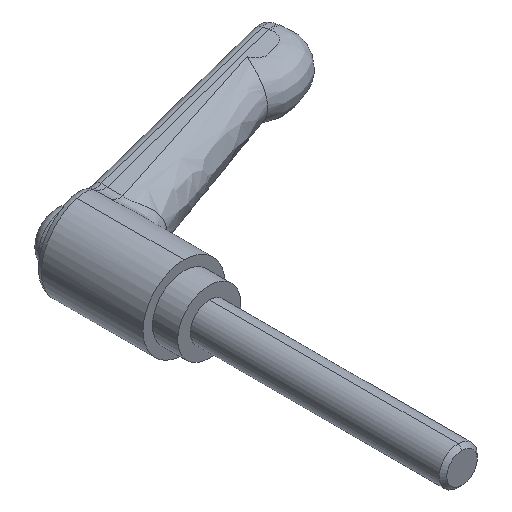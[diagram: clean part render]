
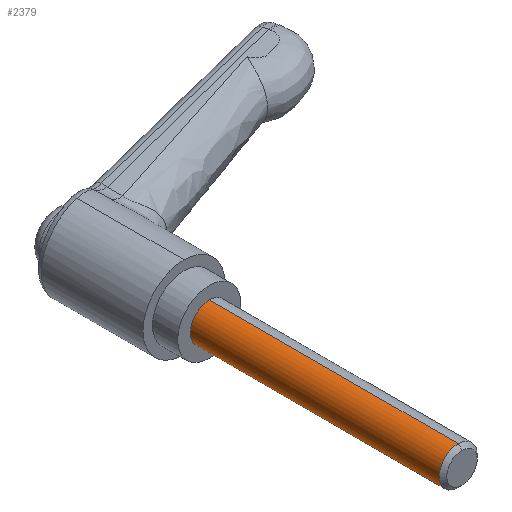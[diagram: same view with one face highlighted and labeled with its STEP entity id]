
A CAD part, isometric view. The second image highlights one B-rep face of the part: STEP entity #2379.
In plain terms, the highlighted cylindrical face has radius 3 mm (diameter 6 mm), a partial arc.
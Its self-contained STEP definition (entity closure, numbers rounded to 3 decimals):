
#53 = DIRECTION ( 'NONE',  ( 0., 1., 0. ) ) ;
#81 = EDGE_CURVE ( 'NONE', #1666, #2866, #2940, .T. ) ;
#266 = LINE ( 'NONE', #1312, #952 ) ;
#339 = DIRECTION ( 'NONE',  ( 0., 1., 0. ) ) ;
#371 = CARTESIAN_POINT ( 'NONE',  ( 0., -4., -3. ) ) ;
#434 = AXIS2_PLACEMENT_3D ( 'NONE', #2111, #53, #1805 ) ;
#554 = DIRECTION ( 'NONE',  ( 0., 0., 1. ) ) ;
#712 = AXIS2_PLACEMENT_3D ( 'NONE', #2634, #1553, #554 ) ;
#723 = VERTEX_POINT ( 'NONE', #1105 ) ;
#952 = VECTOR ( 'NONE', #3170, 1000. ) ;
#993 = VECTOR ( 'NONE', #1987, 1000. ) ;
#1101 = VERTEX_POINT ( 'NONE', #371 ) ;
#1105 = CARTESIAN_POINT ( 'NONE',  ( 0., -4., 3. ) ) ;
#1173 = LINE ( 'NONE', #3257, #993 ) ;
#1220 = AXIS2_PLACEMENT_3D ( 'NONE', #1894, #339, #2097 ) ;
#1312 = CARTESIAN_POINT ( 'NONE',  ( 0., 0., 3. ) ) ;
#1464 = EDGE_CURVE ( 'NONE', #1101, #723, #1803, .T. ) ;
#1553 = DIRECTION ( 'NONE',  ( 0., 1., 0. ) ) ;
#1666 = VERTEX_POINT ( 'NONE', #2059 ) ;
#1684 = FACE_OUTER_BOUND ( 'NONE', #2535, .T. ) ;
#1761 = ORIENTED_EDGE ( 'NONE', *, *, #3161, .T. ) ;
#1803 = CIRCLE ( 'NONE', #712, 3. ) ;
#1805 = DIRECTION ( 'NONE',  ( 0., 0., 1. ) ) ;
#1894 = CARTESIAN_POINT ( 'NONE',  ( 0., 0., 0. ) ) ;
#1987 = DIRECTION ( 'NONE',  ( 0., 1., 0. ) ) ;
#2059 = CARTESIAN_POINT ( 'NONE',  ( 0., -43.4, -3. ) ) ;
#2097 = DIRECTION ( 'NONE',  ( 0., 0., 1. ) ) ;
#2111 = CARTESIAN_POINT ( 'NONE',  ( 0., -43.4, 0. ) ) ;
#2278 = ORIENTED_EDGE ( 'NONE', *, *, #1464, .F. ) ;
#2362 = EDGE_CURVE ( 'NONE', #1666, #1101, #1173, .T. ) ;
#2379 = ADVANCED_FACE ( 'NONE', ( #1684 ), #2990, .T. ) ;
#2531 = CARTESIAN_POINT ( 'NONE',  ( 0., -43.4, 3. ) ) ;
#2535 = EDGE_LOOP ( 'NONE', ( #3145, #2781, #1761, #2278 ) ) ;
#2634 = CARTESIAN_POINT ( 'NONE',  ( 0., -4., 0. ) ) ;
#2781 = ORIENTED_EDGE ( 'NONE', *, *, #81, .T. ) ;
#2866 = VERTEX_POINT ( 'NONE', #2531 ) ;
#2940 = CIRCLE ( 'NONE', #434, 3. ) ;
#2990 = CYLINDRICAL_SURFACE ( 'NONE', #1220, 3. ) ;
#3145 = ORIENTED_EDGE ( 'NONE', *, *, #2362, .F. ) ;
#3161 = EDGE_CURVE ( 'NONE', #2866, #723, #266, .T. ) ;
#3170 = DIRECTION ( 'NONE',  ( 0., 1., 0. ) ) ;
#3257 = CARTESIAN_POINT ( 'NONE',  ( 0., 0., -3. ) ) ;
